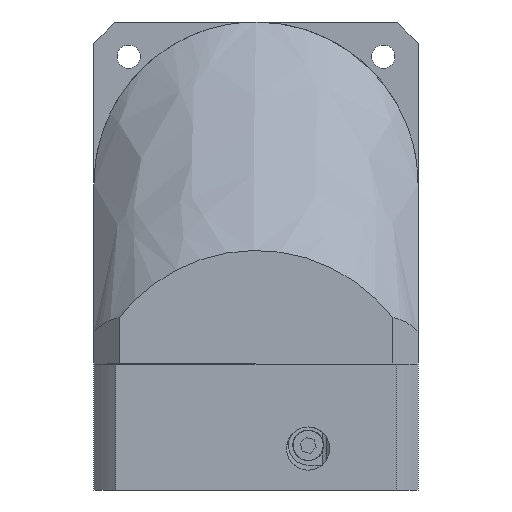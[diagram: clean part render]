
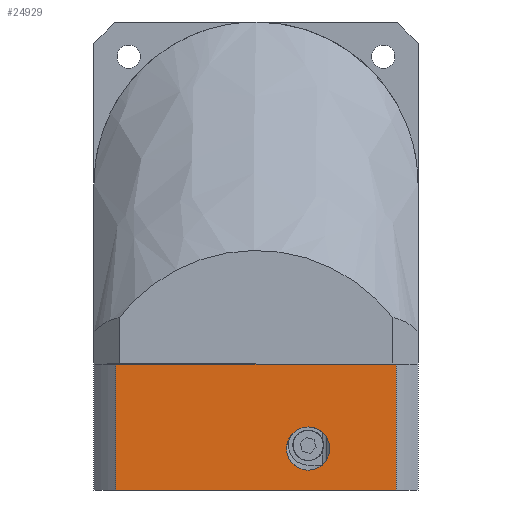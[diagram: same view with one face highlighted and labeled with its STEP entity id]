
A CAD part, front view. The second image highlights one B-rep face of the part: STEP entity #24929.
In plain terms, the highlighted planar face has unit normal (0, -1, 0) as drawn and (0, 0, 1) by its records, which use the part's own axes.
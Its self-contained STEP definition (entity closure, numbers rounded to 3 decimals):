
#1390 = EDGE_CURVE ( 'NONE', #17989, #14935, #8384, .T. ) ;
#1603 = ORIENTED_EDGE ( 'NONE', *, *, #30205, .T. ) ;
#1735 = PLANE ( 'NONE',  #2618 ) ;
#1970 = VECTOR ( 'NONE', #9095, 1000. ) ;
#2168 = VECTOR ( 'NONE', #14721, 1000. ) ;
#2235 = ORIENTED_EDGE ( 'NONE', *, *, #21749, .T. ) ;
#2618 = AXIS2_PLACEMENT_3D ( 'NONE', #9261, #24208, #9054 ) ;
#4019 = AXIS2_PLACEMENT_3D ( 'NONE', #13235, #15900, #10572 ) ;
#4624 = ORIENTED_EDGE ( 'NONE', *, *, #28512, .T. ) ;
#4690 = EDGE_LOOP ( 'NONE', ( #1603, #9467, #32489, #4624 ) ) ;
#5188 = CARTESIAN_POINT ( 'NONE',  ( 17.5, -14.5, 45. ) ) ;
#5935 = DIRECTION ( 'NONE',  ( 1., 0., 0. ) ) ;
#6880 = FACE_OUTER_BOUND ( 'NONE', #4690, .T. ) ;
#8011 = CARTESIAN_POINT ( 'NONE',  ( 59., -38.926, 45. ) ) ;
#8087 = CARTESIAN_POINT ( 'NONE',  ( 5.5, -14.5, 45. ) ) ;
#8165 = VERTEX_POINT ( 'NONE', #24569 ) ;
#8384 = LINE ( 'NONE', #21853, #10372 ) ;
#9054 = DIRECTION ( 'NONE',  ( 1., 0., 0. ) ) ;
#9095 = DIRECTION ( 'NONE',  ( 0., -1., 0. ) ) ;
#9261 = CARTESIAN_POINT ( 'NONE',  ( 59., -45., 45. ) ) ;
#9467 = ORIENTED_EDGE ( 'NONE', *, *, #16869, .T. ) ;
#9792 = VERTEX_POINT ( 'NONE', #8087 ) ;
#10372 = VECTOR ( 'NONE', #21516, 1000. ) ;
#10572 = DIRECTION ( 'NONE',  ( 1., 0., 0. ) ) ;
#10952 = LINE ( 'NONE', #8011, #15302 ) ;
#12291 = CARTESIAN_POINT ( 'NONE',  ( 35., -38.926, 45. ) ) ;
#13235 = CARTESIAN_POINT ( 'NONE',  ( 11.5, -14.5, 45. ) ) ;
#13418 = CIRCLE ( 'NONE', #4019, 6. ) ;
#14721 = DIRECTION ( 'NONE',  ( 0., 1., 0. ) ) ;
#14935 = VERTEX_POINT ( 'NONE', #24744 ) ;
#15302 = VECTOR ( 'NONE', #5935, 1000. ) ;
#15900 = DIRECTION ( 'NONE',  ( 0., 0., -1. ) ) ;
#16869 = EDGE_CURVE ( 'NONE', #29981, #17989, #28416, .T. ) ;
#17124 = CARTESIAN_POINT ( 'NONE',  ( 11.5, -14.5, 45. ) ) ;
#17522 = LINE ( 'NONE', #26712, #1970 ) ;
#17989 = VERTEX_POINT ( 'NONE', #22426 ) ;
#21214 = CIRCLE ( 'NONE', #31141, 6. ) ;
#21516 = DIRECTION ( 'NONE',  ( -1., 0., 0. ) ) ;
#21749 = EDGE_CURVE ( 'NONE', #9792, #31837, #13418, .T. ) ;
#21853 = CARTESIAN_POINT ( 'NONE',  ( 59., 38.926, 45. ) ) ;
#22426 = CARTESIAN_POINT ( 'NONE',  ( 35., 38.926, 45. ) ) ;
#24208 = DIRECTION ( 'NONE',  ( 0., 0., 1. ) ) ;
#24323 = DIRECTION ( 'NONE',  ( 0., 0., -1. ) ) ;
#24569 = CARTESIAN_POINT ( 'NONE',  ( 0., -38.926, 45. ) ) ;
#24574 = CARTESIAN_POINT ( 'NONE',  ( 35., 59.5, 45. ) ) ;
#24744 = CARTESIAN_POINT ( 'NONE',  ( 0., 38.926, 45. ) ) ;
#24929 = ADVANCED_FACE ( 'NONE', ( #6880, #25173 ), #1735, .T. ) ;
#25173 = FACE_BOUND ( 'NONE', #25292, .T. ) ;
#25292 = EDGE_LOOP ( 'NONE', ( #27921, #2235 ) ) ;
#26712 = CARTESIAN_POINT ( 'NONE',  ( 0., -45., 45. ) ) ;
#27921 = ORIENTED_EDGE ( 'NONE', *, *, #30382, .T. ) ;
#28416 = LINE ( 'NONE', #24574, #2168 ) ;
#28512 = EDGE_CURVE ( 'NONE', #14935, #8165, #17522, .T. ) ;
#29436 = DIRECTION ( 'NONE',  ( 1., 0., 0. ) ) ;
#29981 = VERTEX_POINT ( 'NONE', #12291 ) ;
#30205 = EDGE_CURVE ( 'NONE', #8165, #29981, #10952, .T. ) ;
#30382 = EDGE_CURVE ( 'NONE', #31837, #9792, #21214, .T. ) ;
#31141 = AXIS2_PLACEMENT_3D ( 'NONE', #17124, #24323, #29436 ) ;
#31837 = VERTEX_POINT ( 'NONE', #5188 ) ;
#32489 = ORIENTED_EDGE ( 'NONE', *, *, #1390, .T. ) ;
